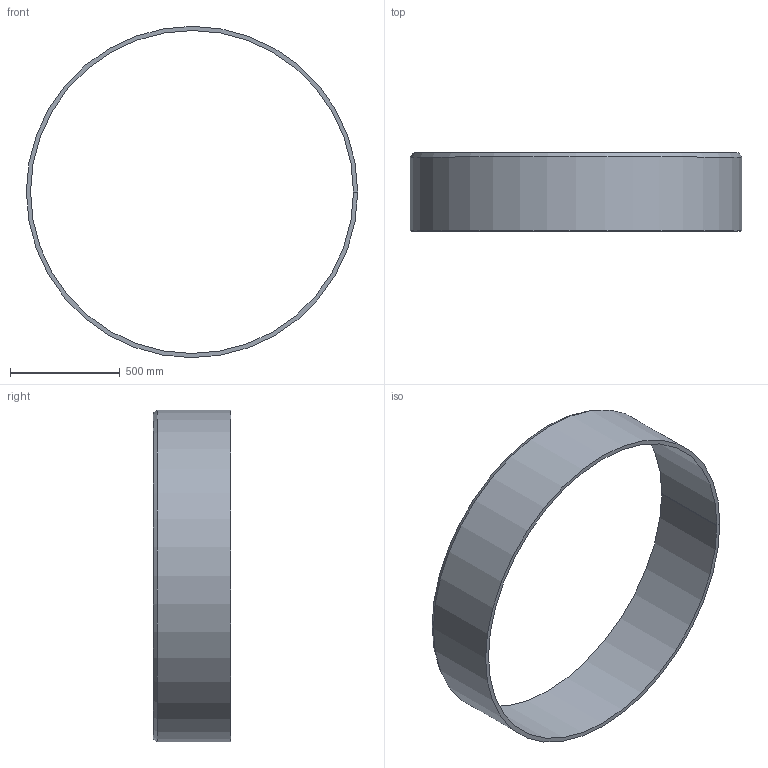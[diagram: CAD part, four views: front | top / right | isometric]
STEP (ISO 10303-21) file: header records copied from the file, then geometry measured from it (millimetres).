
FILE_DESCRIPTION (( 'STEP AP214' ), '1' );
FILE_NAME ('Section 1 but Longer.STEP', '2025-01-09T19:43:28', ( '' ), ( '' ), 'SwSTEP 2.0', 'SolidWorks 2024', '' );
FILE_SCHEMA (( 'AUTOMOTIVE_DESIGN' ));
Length unit declared in the file: inch
Products named in the file (1): Section 1 but Longer_DefaultSM-FLAT-PATTERN
Bounding box: 1511.3 x 355.6 x 1511.3 mm (x, y, z)
Volume: 31241211.2 mm3; surface area: 3485097.6 mm2
Topology: 1 solids, 1 shells, 7 faces, 15 edges, 10 vertices
Faces by surface type: plane 4, cylinder 2, cone 1
Entity records: 221 total; most frequent: DIRECTION 36, CARTESIAN_POINT 33, ORIENTED_EDGE 30, EDGE_CURVE 15, AXIS2_PLACEMENT_3D 13, VERTEX_POINT 10, VECTOR 10, LINE 10
